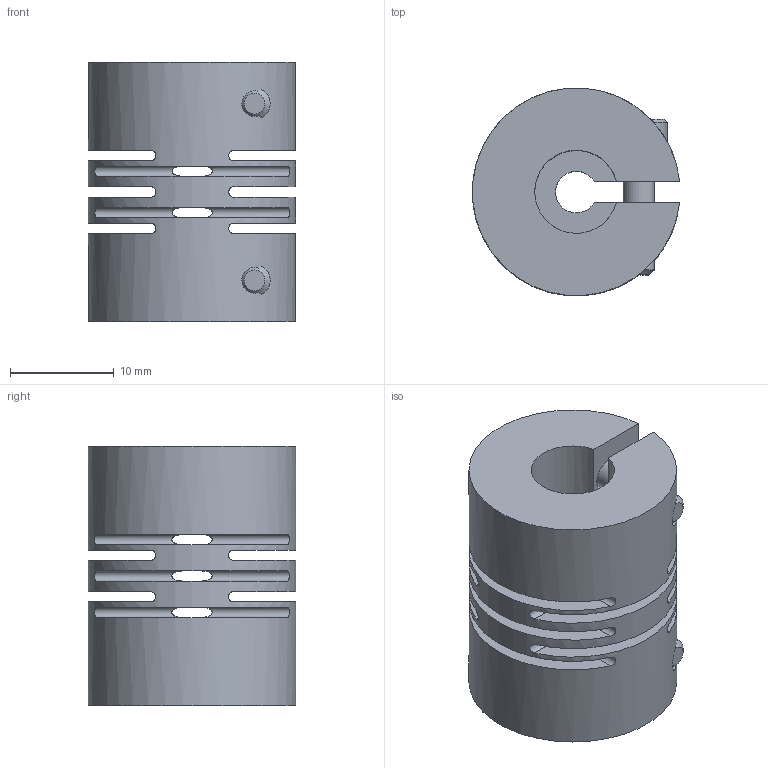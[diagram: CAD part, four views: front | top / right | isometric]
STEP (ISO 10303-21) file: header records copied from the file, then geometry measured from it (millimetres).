
FILE_DESCRIPTION(('STEP AP214'), '1');
FILE_NAME('DR-2025-4-8 - Ñîåäèíèòåëüíàÿ ìóôòà', '', ('UNSPECIFIED'), ('UNSPECIFIED'), 'ASCON STEP Converter 1.3', 'ASCON Math Kernel', '');
FILE_SCHEMA(('AUTOMOTIVE_DESIGN { 1 0 10303 214 3 1 1}'));
Length unit declared in the file: millimetre
Products named in the file (3): DR-2025-4-8; 擱藏.00.001
Assembly tree (3 placements, depth 2):
  DR-2025-4-8
    (unnamed)
    擱藏.00.001  x2
Bounding box: 19.95 x 20 x 25 mm (x, y, z)
Volume: 5663.4 mm3; surface area: 5039.3 mm2
Topology: 3 solids, 3 shells, 110 faces, 268 edges, 168 vertices
Faces by surface type: plane 69, cylinder 33, cone 8
Full cylindrical faces by diameter (mm): 2.459 x2, 2.5 x2, 3 x2, 3.5 x2, 5.5 x2, 6 x2
Entity records: 5780 total; most frequent: CARTESIAN_POINT 2848, ORIENTED_EDGE 414, DIRECTION 410, EDGE_CURVE 207, AXIS2_PLACEMENT_3D 159, VERTEX_POINT 139, EDGE_LOOP 126, FACE_BOUND 103
